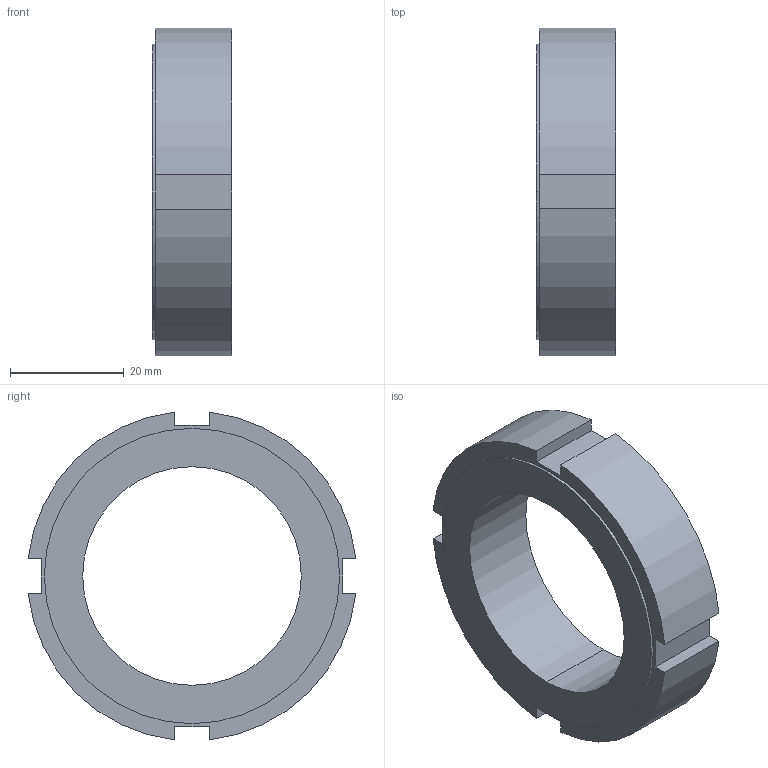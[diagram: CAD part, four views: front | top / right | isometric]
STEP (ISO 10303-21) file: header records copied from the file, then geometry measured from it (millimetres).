
FILE_DESCRIPTION (( 'STEP AP203' ), '1' );
FILE_NAME ('HIR40.STEP', '2002-08-15T11:39:53', ( '.' ), ( '.' ), 'SwSTEP 2.0', 'SolidWorks 2001340', '' );
FILE_SCHEMA (( 'CONFIG_CONTROL_DESIGN' ));
Length unit declared in the file: millimetre
Products named in the file (1): HIR40
Bounding box: 14 x 57.69 x 57.69 mm (x, y, z)
Volume: 19638.5 mm3; surface area: 7325.8 mm2
Topology: 1 solids, 1 shells, 23 faces, 60 edges, 40 vertices
Faces by surface type: plane 15, cylinder 8
Entity records: 791 total; most frequent: CARTESIAN_POINT 124, DIRECTION 124, ORIENTED_EDGE 120, EDGE_CURVE 60, LINE 44, VECTOR 44, VERTEX_POINT 40, AXIS2_PLACEMENT_3D 40
